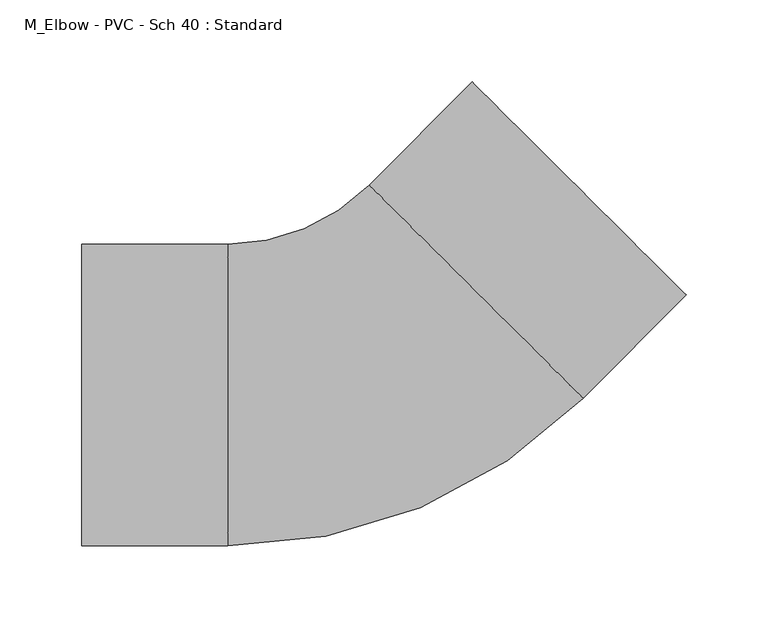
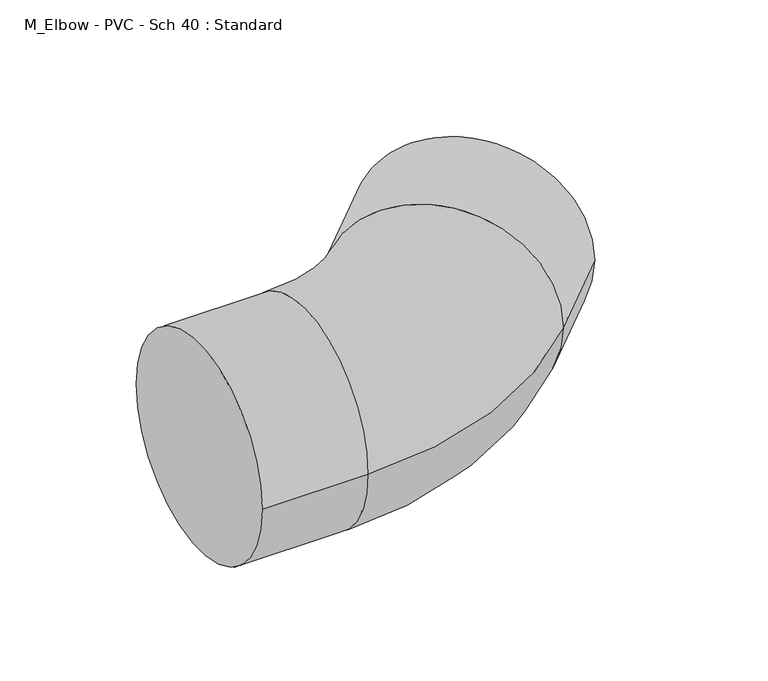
"""IFC4 building model written with IfcOpenShell, lengths in millimetres: pipe fitting geometry, M_Elbow - PVC - Sch 40 : Standard."""

from ifc_helpers import new_model, si_unit, point, frame, origin, place, context, project, spatial, circle_curve, ellipse_curve, trimmed, source, transform, mapped, element, save
from ifc_brep_helpers import plane_surface, cylinder_surface, revolved_surface, advanced_brep


def m_elbow_pvc_sch_40_standard_837b0bcb(model_context):
    return source(origin(), model_context, "Body", "AdvancedBrep", [
        advanced_brep(
        [(-177.8, -92.075, 0.0), (-177.8, 92.075, 0.0), (-88.9, -92.075, 0.0), (-88.9, 92.075, 0.0), (-2.5329882, 127.9632744, 0.0), (127.9733772, -1.9571285, 0.0), (190.6935717, 61.0459445, 0.0), (60.1872063, 190.9663474, 0.0)],
        [
            (0, 1, circle_curve(frame((-177.8, 0.0, 0.0), z_axis=(-1.0, 0.0, 0.0), x_axis=(0.0, 1.0, 0.0)), 92.075)),
            (1, 0, circle_curve(frame((-177.8, 0.0, 0.0), z_axis=(-1.0, 0.0, 0.0), x_axis=(0.0, 1.0, 0.0)), 92.075)),
            (0, 2),
            (2, 3, circle_curve(frame((-88.9, 0.0, 0.0), z_axis=(-1.0, 0.0, 0.0), x_axis=(0.0, 1.0, 0.0)), 92.075)),
            (3, 1),
            (3, 2, circle_curve(frame((-88.9, 0.0, 0.0), z_axis=(-1.0, 0.0, 0.0), x_axis=(0.0, 1.0, 0.0)), 92.075)),
            (4, 3, circle_curve(frame((-88.9, 213.9425056, 0.0), z_axis=(0.0, 0.0, -1.0), x_axis=(0.0, -1.0, 0.0)), 121.8675056)),
            (2, 5, circle_curve(frame((-88.9, 213.9425056, 0.0), z_axis=(0.0, 0.0, 1.0), x_axis=(0.0, -1.0, 0.0)), 306.0175056)),
            (5, 4, circle_curve(frame((62.7201945, 63.003073, 0.0), z_axis=(-0.7055139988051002, -0.7086959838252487, 0.0), x_axis=(-0.7086959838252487, 0.7055139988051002, 0.0)), 92.075)),
            (4, 5, circle_curve(frame((62.7201945, 63.003073, 0.0), z_axis=(-0.7055139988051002, -0.7086959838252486, 0.0), x_axis=(-0.7086959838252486, 0.7055139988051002, 0.0)), 92.075)),
            (6, 7, circle_curve(frame((125.440389, 126.0061459, 0.0), z_axis=(0.7055139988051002, 0.7086959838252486, 0.0), x_axis=(-0.7086959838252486, 0.7055139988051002, 0.0)), 92.075)),
            (7, 6, circle_curve(frame((125.440389, 126.0061459, 0.0), z_axis=(0.7055139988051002, 0.7086959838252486, 0.0), x_axis=(-0.7086959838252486, 0.7055139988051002, 0.0)), 92.075)),
            (5, 6),
            (7, 4),
        ],
        [
            plane_surface(frame((-177.8, 0.0, 0.0), z_axis=(-1.0, 0.0, 0.0), x_axis=(0.0, 0.0, 1.0))),
            cylinder_surface(frame((-177.8, 0.0, 0.0), z_axis=(-1.0, 0.0, 0.0), x_axis=(0.0, 1.0, 0.0)), 92.075),
            revolved_surface(trimmed(ellipse_curve(frame((-88.9, 0.0, 0.0), z_axis=(-1.0, 0.0, 0.0), x_axis=(0.0, 1.0, 0.0)), 92.075, 92.075), [point((-88.9, -92.075, 0.0))], [point((-88.9, 92.075, 0.0))], True, "CARTESIAN"), (-88.9, 213.9425056, 0.0), (0.0, 0.0, 1.0)),
            revolved_surface(trimmed(ellipse_curve(frame((-88.9, 0.0, 0.0), z_axis=(-1.0, 0.0, 0.0), x_axis=(0.0, 1.0, 0.0)), 92.075, 92.075), [point((-88.9, 92.075, 0.0))], [point((-88.9, -92.075, 0.0))], True, "CARTESIAN"), (-88.9, 213.9425056, 0.0), (0.0, 0.0, 1.0)),
            plane_surface(frame((125.440389, 126.0061459, 0.0), z_axis=(0.7055139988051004, 0.7086959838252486, 0.0), x_axis=(0.0, 0.0, 1.0))),
            cylinder_surface(frame((62.7201945, 63.003073, 0.0), z_axis=(-0.7055139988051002, -0.7086959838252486, 0.0), x_axis=(-0.7086959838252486, 0.7055139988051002, 0.0)), 92.075),
        ],
        [
            (0, [[1, 2]]),
            (1, [[-1, 3, 4, 5]]),
            (1, [[-2, -5, 6, -3]]),
            (2, [[7, -4, 8, 9]]),
            (3, [[-8, -6, -7, 10]]),
            (4, [[11, 12]]),
            (5, [[-9, 13, -12, 14]]),
            (5, [[-10, -14, -11, -13]]),
        ],
    ),
    ])


if __name__ == "__main__":
    model = new_model("IFC4")
    model_context = context("Model", 3, world=origin())
    ifc_project = project(units=[si_unit("LENGTHUNIT", "METRE", prefix="MILLI")], contexts=[model_context])
    site = spatial("IfcSite", under=ifc_project)
    building = spatial("IfcBuilding", under=site)
    placement = place(None, origin())
    m_elbow_pvc_sch_40_standard_shape = m_elbow_pvc_sch_40_standard_837b0bcb(model_context)
    element("IfcPipeFitting", 1, ObjectType="M_Elbow - PVC - Sch 40 : Standard", at=placement, inside=building, context=model_context, shape_type="MappedRepresentation", body=[
        mapped(m_elbow_pvc_sch_40_standard_shape, transform((0.0, 0.0, 0.0), x_axis=(1.0, 0.0, 0.0), y_axis=(0.0, 1.0, 0.0), z_axis=(0.0, 0.0, 1.0))),
    ])
    save(model, "model.ifc")
